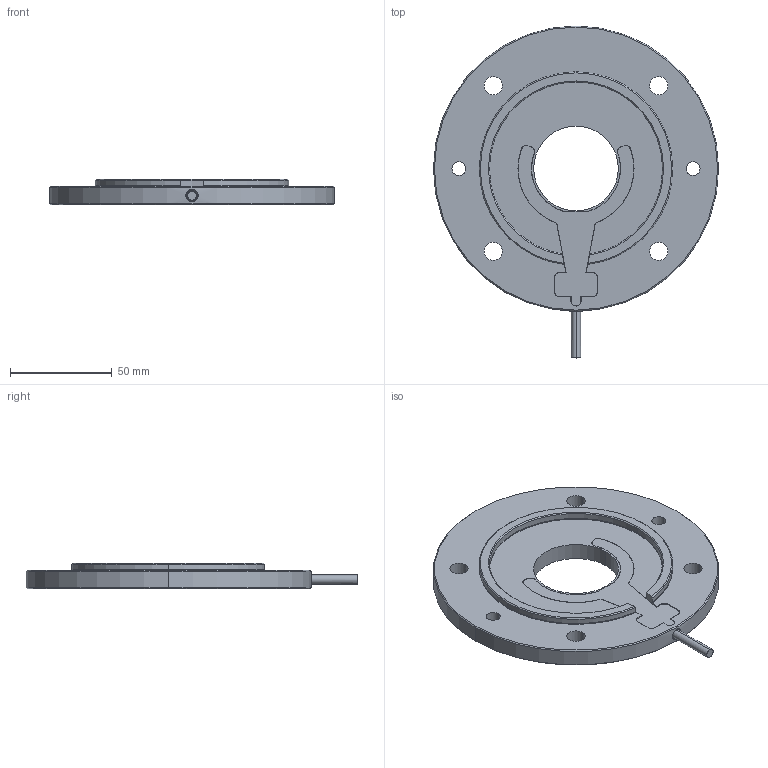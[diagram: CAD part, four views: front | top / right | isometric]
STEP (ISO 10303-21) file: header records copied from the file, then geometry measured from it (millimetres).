
FILE_DESCRIPTION (( 'STEP AP203' ), '1' );
FILE_NAME ('MRH140-9.STEP', '2024-12-16T10:18:48', ( '' ), ( '' ), 'SwSTEP 2.0', 'SolidWorks 2023', '' );
FILE_SCHEMA (( 'CONFIG_CONTROL_DESIGN' ));
Length unit declared in the file: millimetre
Products named in the file (1): MRH140-9
Bounding box: 140 x 163 x 12.5 mm (x, y, z)
Volume: 108323.3 mm3; surface area: 41195.6 mm2
Topology: 1 solids, 3 shells, 162 faces, 428 edges, 275 vertices
Faces by surface type: cylinder 81, plane 54, cone 14, torus 11, bspline 2
Entity records: 6409 total; most frequent: CARTESIAN_POINT 2149, DIRECTION 933, ORIENTED_EDGE 856, EDGE_CURVE 428, AXIS2_PLACEMENT_3D 365, VERTEX_POINT 275, CIRCLE 204, VECTOR 203
